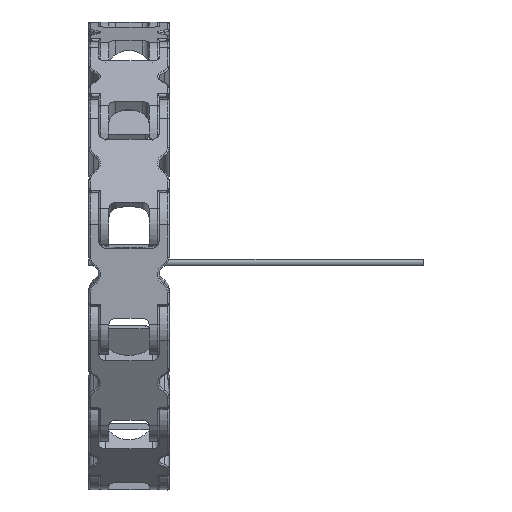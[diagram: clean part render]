
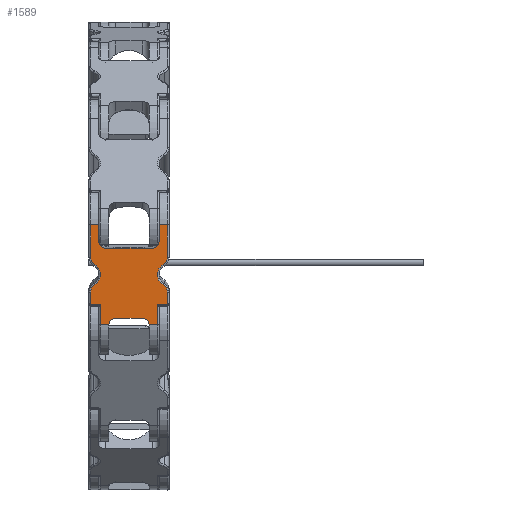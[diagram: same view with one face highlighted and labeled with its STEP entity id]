
A CAD part, front view. The second image highlights one B-rep face of the part: STEP entity #1589.
In plain terms, the highlighted planar face has unit normal (0, -0.999, -0.055) as drawn and (0, -1, 0) by its records, which use the part's own axes.
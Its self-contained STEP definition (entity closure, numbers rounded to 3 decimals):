
#198=CARTESIAN_POINT('',(2.,-5.0,11.75));
#199=VERTEX_POINT('',#198);
#217=CARTESIAN_POINT('',(-2.902,-5.0,11.75));
#218=VERTEX_POINT('',#217);
#226=CARTESIAN_POINT('',(-2.902,-5.0,11.75));
#227=DIRECTION('',(1.0,0.0,0.0));
#228=VECTOR('',#227,4.902);
#229=LINE('',#226,#228);
#230=EDGE_CURVE('',#218,#199,#229,.T.);
#276=CARTESIAN_POINT('',(-3.984,-5.0,11.125));
#277=VERTEX_POINT('',#276);
#285=CARTESIAN_POINT('',(-2.902,-5.0,10.5));
#286=DIRECTION('',(0.0,1.,0.0));
#287=DIRECTION('',(-0.5,0.0,0.866));
#288=AXIS2_PLACEMENT_3D('',#285,#286,#287);
#289=CIRCLE('',#288,1.25);
#290=EDGE_CURVE('',#277,#218,#289,.T.);
#342=CARTESIAN_POINT('',(-7.016,-5.0,11.125));
#343=VERTEX_POINT('',#342);
#351=CARTESIAN_POINT('',(-5.5,-5.0,12.));
#352=DIRECTION('',(0.0,-1.0,0.0));
#353=DIRECTION('',(0.0,0.0,-1.0));
#354=AXIS2_PLACEMENT_3D('',#351,#352,#353);
#355=CIRCLE('',#354,1.75);
#356=EDGE_CURVE('',#343,#277,#355,.T.);
#410=CARTESIAN_POINT('',(-8.098,-5.0,11.75));
#411=VERTEX_POINT('',#410);
#419=CARTESIAN_POINT('',(-8.098,-5.0,10.5));
#420=DIRECTION('',(0.0,1.0,0.0));
#421=DIRECTION('',(0.5,0.0,0.866));
#422=AXIS2_PLACEMENT_3D('',#419,#420,#421);
#423=CIRCLE('',#422,1.25);
#424=EDGE_CURVE('',#411,#343,#423,.T.);
#478=CARTESIAN_POINT('',(-9.755,-5.0,11.75));
#479=VERTEX_POINT('',#478);
#487=CARTESIAN_POINT('',(-9.755,-5.0,11.75));
#488=DIRECTION('',(1.0,0.0,0.));
#489=VECTOR('',#488,1.657);
#490=LINE('',#487,#489);
#491=EDGE_CURVE('',#479,#411,#490,.T.);
#562=CARTESIAN_POINT('',(-9.955,-5.0,11.65));
#563=VERTEX_POINT('',#562);
#571=CARTESIAN_POINT('',(-9.755,-5.0,11.5));
#572=DIRECTION('',(0.0,1.0,0.0));
#573=DIRECTION('',(-0.204,0.0,0.979));
#574=AXIS2_PLACEMENT_3D('',#571,#572,#573);
#575=CIRCLE('',#574,0.25);
#576=EDGE_CURVE('',#563,#479,#575,.T.);
#1375=CARTESIAN_POINT('',(2.,-5.0,10.5));
#1376=VERTEX_POINT('',#1375);
#1377=CARTESIAN_POINT('',(2.,-5.0,10.5));
#1378=DIRECTION('',(0.0,0.0,1.0));
#1379=VECTOR('',#1378,1.25);
#1380=LINE('',#1377,#1379);
#1381=EDGE_CURVE('',#1376,#199,#1380,.T.);
#1401=CARTESIAN_POINT('',(2.,-5.0,0.0));
#1402=DIRECTION('',(0.0,-1.0,0.0));
#1403=DIRECTION('',(0.0,0.0,-1.0));
#1404=AXIS2_PLACEMENT_3D('',#1401,#1402,#1403);
#1405=PLANE('',#1404);
#1406=ORIENTED_EDGE('',*,*,#230,.F.);
#1407=ORIENTED_EDGE('',*,*,#290,.F.);
#1408=ORIENTED_EDGE('',*,*,#356,.F.);
#1409=ORIENTED_EDGE('',*,*,#424,.F.);
#1410=ORIENTED_EDGE('',*,*,#491,.F.);
#1411=ORIENTED_EDGE('',*,*,#576,.F.);
#1412=CARTESIAN_POINT('',(-9.955,-5.0,10.25));
#1413=VERTEX_POINT('',#1412);
#1414=CARTESIAN_POINT('',(-9.955,-5.0,10.25));
#1415=DIRECTION('',(0.0,0.0,1.0));
#1416=VECTOR('',#1415,1.4);
#1417=LINE('',#1414,#1416);
#1418=EDGE_CURVE('',#1413,#563,#1417,.T.);
#1419=ORIENTED_EDGE('',*,*,#1418,.F.);
#1420=CARTESIAN_POINT('',(-13.,-5.0,10.25));
#1421=VERTEX_POINT('',#1420);
#1422=CARTESIAN_POINT('',(-13.,-5.0,10.25));
#1423=DIRECTION('',(1.0,0.0,0.0));
#1424=VECTOR('',#1423,3.045);
#1425=LINE('',#1422,#1424);
#1426=EDGE_CURVE('',#1421,#1413,#1425,.T.);
#1427=ORIENTED_EDGE('',*,*,#1426,.F.);
#1428=CARTESIAN_POINT('',(-13.,-5.0,9.));
#1429=VERTEX_POINT('',#1428);
#1430=CARTESIAN_POINT('',(-13.,-5.0,9.));
#1431=DIRECTION('',(0.,0.0,1.0));
#1432=VECTOR('',#1431,1.25);
#1433=LINE('',#1430,#1432);
#1434=EDGE_CURVE('',#1429,#1421,#1433,.T.);
#1435=ORIENTED_EDGE('',*,*,#1434,.F.);
#1436=CARTESIAN_POINT('',(-12.,-5.0,8.));
#1437=VERTEX_POINT('',#1436);
#1438=CARTESIAN_POINT('',(-13.,-5.0,8.));
#1439=DIRECTION('',(0.0,1.0,0.0));
#1440=DIRECTION('',(-1.0,0.0,0.0));
#1441=AXIS2_PLACEMENT_3D('',#1438,#1439,#1440);
#1442=CIRCLE('',#1441,1.0);
#1443=EDGE_CURVE('',#1429,#1437,#1442,.T.);
#1444=ORIENTED_EDGE('',*,*,#1443,.T.);
#1445=CARTESIAN_POINT('',(-12.,-5.0,4.));
#1446=VERTEX_POINT('',#1445);
#1447=CARTESIAN_POINT('',(-12.,-5.0,8.));
#1448=DIRECTION('',(0.0,0.0,-1.0));
#1449=VECTOR('',#1448,4.);
#1450=LINE('',#1447,#1449);
#1451=EDGE_CURVE('',#1437,#1446,#1450,.T.);
#1452=ORIENTED_EDGE('',*,*,#1451,.T.);
#1453=CARTESIAN_POINT('',(-13.,-5.0,3.));
#1454=VERTEX_POINT('',#1453);
#1455=CARTESIAN_POINT('',(-13.,-5.0,4.));
#1456=DIRECTION('',(0.0,1.0,0.0));
#1457=DIRECTION('',(0.0,0.0,1.0));
#1458=AXIS2_PLACEMENT_3D('',#1455,#1456,#1457);
#1459=CIRCLE('',#1458,1.0);
#1460=EDGE_CURVE('',#1446,#1454,#1459,.T.);
#1461=ORIENTED_EDGE('',*,*,#1460,.T.);
#1462=CARTESIAN_POINT('',(-13.,-5.0,1.75));
#1463=VERTEX_POINT('',#1462);
#1464=CARTESIAN_POINT('',(-13.,-5.0,1.75));
#1465=DIRECTION('',(0.,0.0,1.0));
#1466=VECTOR('',#1465,1.25);
#1467=LINE('',#1464,#1466);
#1468=EDGE_CURVE('',#1463,#1454,#1467,.T.);
#1469=ORIENTED_EDGE('',*,*,#1468,.F.);
#1470=CARTESIAN_POINT('',(-9.955,-5.0,1.75));
#1471=VERTEX_POINT('',#1470);
#1472=CARTESIAN_POINT('',(-9.955,-5.0,1.75));
#1473=DIRECTION('',(-1.0,0.0,0.0));
#1474=VECTOR('',#1473,3.045);
#1475=LINE('',#1472,#1474);
#1476=EDGE_CURVE('',#1471,#1463,#1475,.T.);
#1477=ORIENTED_EDGE('',*,*,#1476,.F.);
#1478=CARTESIAN_POINT('',(-9.955,-5.0,0.35));
#1479=VERTEX_POINT('',#1478);
#1480=CARTESIAN_POINT('',(-9.955,-5.0,1.75));
#1481=DIRECTION('',(0.0,0.0,-1.0));
#1482=VECTOR('',#1481,1.4);
#1483=LINE('',#1480,#1482);
#1484=EDGE_CURVE('',#1471,#1479,#1483,.T.);
#1485=ORIENTED_EDGE('',*,*,#1484,.T.);
#1486=CARTESIAN_POINT('',(-9.755,-5.0,0.25));
#1487=VERTEX_POINT('',#1486);
#1488=CARTESIAN_POINT('',(-9.755,-5.0,0.5));
#1489=DIRECTION('',(0.0,1.,0.0));
#1490=DIRECTION('',(-0.204,0.0,-0.979));
#1491=AXIS2_PLACEMENT_3D('',#1488,#1489,#1490);
#1492=CIRCLE('',#1491,0.25);
#1493=EDGE_CURVE('',#1487,#1479,#1492,.T.);
#1494=ORIENTED_EDGE('',*,*,#1493,.F.);
#1495=CARTESIAN_POINT('',(-8.098,-5.0,0.25));
#1496=VERTEX_POINT('',#1495);
#1497=CARTESIAN_POINT('',(-8.098,-5.0,0.25));
#1498=DIRECTION('',(-1.0,0.0,0.));
#1499=VECTOR('',#1498,1.657);
#1500=LINE('',#1497,#1499);
#1501=EDGE_CURVE('',#1496,#1487,#1500,.T.);
#1502=ORIENTED_EDGE('',*,*,#1501,.F.);
#1503=CARTESIAN_POINT('',(-7.016,-5.0,0.875));
#1504=VERTEX_POINT('',#1503);
#1505=CARTESIAN_POINT('',(-8.098,-5.0,1.5));
#1506=DIRECTION('',(0.0,1.0,0.0));
#1507=DIRECTION('',(0.5,0.0,-0.866));
#1508=AXIS2_PLACEMENT_3D('',#1505,#1506,#1507);
#1509=CIRCLE('',#1508,1.25);
#1510=EDGE_CURVE('',#1504,#1496,#1509,.T.);
#1511=ORIENTED_EDGE('',*,*,#1510,.F.);
#1512=CARTESIAN_POINT('',(-3.984,-5.0,0.875));
#1513=VERTEX_POINT('',#1512);
#1514=CARTESIAN_POINT('',(-5.5,-5.0,0.));
#1515=DIRECTION('',(0.0,-1.0,0.0));
#1516=DIRECTION('',(0.0,0.0,1.0));
#1517=AXIS2_PLACEMENT_3D('',#1514,#1515,#1516);
#1518=CIRCLE('',#1517,1.75);
#1519=EDGE_CURVE('',#1513,#1504,#1518,.T.);
#1520=ORIENTED_EDGE('',*,*,#1519,.F.);
#1521=CARTESIAN_POINT('',(-2.902,-5.0,0.25));
#1522=VERTEX_POINT('',#1521);
#1523=CARTESIAN_POINT('',(-2.902,-5.0,1.5));
#1524=DIRECTION('',(0.0,1.,0.0));
#1525=DIRECTION('',(-0.5,0.0,-0.866));
#1526=AXIS2_PLACEMENT_3D('',#1523,#1524,#1525);
#1527=CIRCLE('',#1526,1.25);
#1528=EDGE_CURVE('',#1522,#1513,#1527,.T.);
#1529=ORIENTED_EDGE('',*,*,#1528,.F.);
#1530=CARTESIAN_POINT('',(2.,-5.0,0.25));
#1531=VERTEX_POINT('',#1530);
#1532=CARTESIAN_POINT('',(2.,-5.0,0.25));
#1533=DIRECTION('',(-1.0,0.0,0.0));
#1534=VECTOR('',#1533,4.902);
#1535=LINE('',#1532,#1534);
#1536=EDGE_CURVE('',#1531,#1522,#1535,.T.);
#1537=ORIENTED_EDGE('',*,*,#1536,.F.);
#1538=CARTESIAN_POINT('',(2.,-5.0,1.5));
#1539=VERTEX_POINT('',#1538);
#1540=CARTESIAN_POINT('',(2.,-5.0,0.25));
#1541=DIRECTION('',(0.0,0.0,1.0));
#1542=VECTOR('',#1541,1.25);
#1543=LINE('',#1540,#1542);
#1544=EDGE_CURVE('',#1531,#1539,#1543,.T.);
#1545=ORIENTED_EDGE('',*,*,#1544,.T.);
#1546=CARTESIAN_POINT('',(-0.5,-5.0,1.5));
#1547=VERTEX_POINT('',#1546);
#1548=CARTESIAN_POINT('',(2.,-5.0,1.5));
#1549=DIRECTION('',(-1.0,0.0,0.0));
#1550=VECTOR('',#1549,2.5);
#1551=LINE('',#1548,#1550);
#1552=EDGE_CURVE('',#1539,#1547,#1551,.T.);
#1553=ORIENTED_EDGE('',*,*,#1552,.T.);
#1554=CARTESIAN_POINT('',(-1.5,-5.0,2.5));
#1555=VERTEX_POINT('',#1554);
#1556=CARTESIAN_POINT('',(-0.5,-5.0,2.5));
#1557=DIRECTION('',(0.0,1.0,0.0));
#1558=DIRECTION('',(1.0,0.0,0.0));
#1559=AXIS2_PLACEMENT_3D('',#1556,#1557,#1558);
#1560=CIRCLE('',#1559,1.0);
#1561=EDGE_CURVE('',#1547,#1555,#1560,.T.);
#1562=ORIENTED_EDGE('',*,*,#1561,.T.);
#1563=CARTESIAN_POINT('',(-1.5,-5.0,9.5));
#1564=VERTEX_POINT('',#1563);
#1565=CARTESIAN_POINT('',(-1.5,-5.0,2.5));
#1566=DIRECTION('',(0.0,0.0,1.0));
#1567=VECTOR('',#1566,7.);
#1568=LINE('',#1565,#1567);
#1569=EDGE_CURVE('',#1555,#1564,#1568,.T.);
#1570=ORIENTED_EDGE('',*,*,#1569,.T.);
#1571=CARTESIAN_POINT('',(-0.5,-5.0,10.5));
#1572=VERTEX_POINT('',#1571);
#1573=CARTESIAN_POINT('',(-0.5,-5.0,9.5));
#1574=DIRECTION('',(0.0,1.0,0.0));
#1575=DIRECTION('',(0.0,0.0,-1.0));
#1576=AXIS2_PLACEMENT_3D('',#1573,#1574,#1575);
#1577=CIRCLE('',#1576,1.0);
#1578=EDGE_CURVE('',#1564,#1572,#1577,.T.);
#1579=ORIENTED_EDGE('',*,*,#1578,.T.);
#1580=CARTESIAN_POINT('',(-0.5,-5.0,10.5));
#1581=DIRECTION('',(1.0,0.0,0.0));
#1582=VECTOR('',#1581,2.5);
#1583=LINE('',#1580,#1582);
#1584=EDGE_CURVE('',#1572,#1376,#1583,.T.);
#1585=ORIENTED_EDGE('',*,*,#1584,.T.);
#1586=ORIENTED_EDGE('',*,*,#1381,.T.);
#1587=EDGE_LOOP('',(#1406,#1407,#1408,#1409,#1410,#1411,#1419,#1427,#1435,#1444,#1452,#1461,#1469,#1477,#1485,#1494,#1502,#1511,#1520,#1529,#1537,#1545,#1553,#1562,#1570,#1579,#1585,#1586));
#1588=FACE_OUTER_BOUND('',#1587,.T.);
#1589=ADVANCED_FACE('',(#1588),#1405,.T.);
